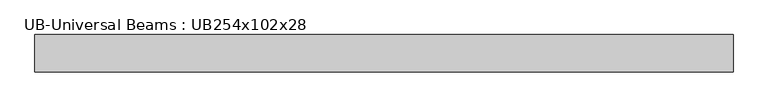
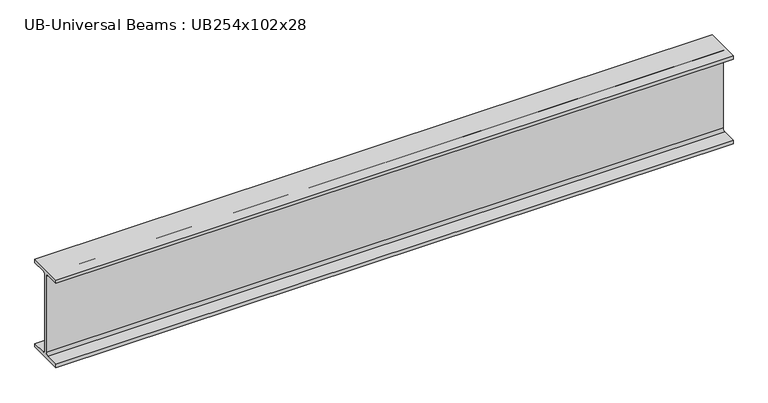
"""IFC4 building model written with IfcOpenShell, lengths in millimetres: beam geometry, UB-Universal Beams : UB254x102x28."""

from ifc_helpers import new_model, si_unit, point, frame, frame_2d, origin, place, context, project, spatial, polyline, circle_curve, trimmed, segment, composite_curve, outline, extrude, source, transform, mapped, element, save


def ub_universal_beams_ub254x102x28_9e251ecf(model_context):
    return source(origin(), model_context, "Body", "SweptSolid", [
        extrude(outline(composite_curve([segment(polyline([(51.1, -120.2), (51.1, -130.2), (-51.1, -130.2), (-51.1, -120.2), (-10.75, -120.2)]), True, "CONTINUOUS"), segment(trimmed(circle_curve(frame_2d((-10.75, -112.6)), 7.6), [point((-10.75, -120.2))], [point((-3.15, -112.6))], True, "CARTESIAN"), True, "CONTINUOUS"), segment(polyline([(-3.15, -112.6), (-3.15, 112.6)]), True, "CONTINUOUS"), segment(trimmed(circle_curve(frame_2d((-10.75, 112.6)), 7.6), [point((-3.15, 112.6))], [point((-10.75, 120.2))], True, "CARTESIAN"), True, "CONTINUOUS"), segment(polyline([(-10.75, 120.2), (-51.1, 120.2), (-51.1, 130.2), (51.1, 130.2), (51.1, 120.2), (10.75, 120.2)]), True, "CONTINUOUS"), segment(trimmed(circle_curve(frame_2d((10.75, 112.6)), 7.6), [point((10.75, 120.2))], [point((3.15, 112.6))], True, "CARTESIAN"), True, "CONTINUOUS"), segment(polyline([(3.15, 112.6), (3.15, -112.6)]), True, "CONTINUOUS"), segment(trimmed(circle_curve(frame_2d((10.75, -112.6)), 7.6), [point((3.15, -112.6))], [point((10.75, -120.2))], True, "CARTESIAN"), True, "CONTINUOUS"), segment(polyline([(10.75, -120.2), (51.1, -120.2)]), True, "CONTINUOUS")], self_intersect=False)), frame((-866.95, 0.0, 0.0), z_axis=(1.0, 0.0, 0.0), x_axis=(0.0, 1.0, 0.0)), (0.0, 0.0, 1.0), 1900.6),
    ])


if __name__ == "__main__":
    model = new_model("IFC4")
    model_context = context("Model", 3, world=origin())
    ifc_project = project(units=[si_unit("LENGTHUNIT", "METRE", prefix="MILLI")], contexts=[model_context])
    site = spatial("IfcSite", under=ifc_project)
    building = spatial("IfcBuilding", under=site)
    placement = place(None, origin())
    ub_universal_beams_ub254x102x28_shape = ub_universal_beams_ub254x102x28_9e251ecf(model_context)
    element("IfcBeam", 1, ObjectType="UB-Universal Beams : UB254x102x28", at=placement, inside=building, context=model_context, shape_type="MappedRepresentation", body=[
        mapped(ub_universal_beams_ub254x102x28_shape, transform((0.0, 0.0, 0.0), x_axis=(1.0, 0.0, 0.0), y_axis=(0.0, 1.0, 0.0), z_axis=(0.0, 0.0, 1.0))),
    ])
    save(model, "model.ifc")
